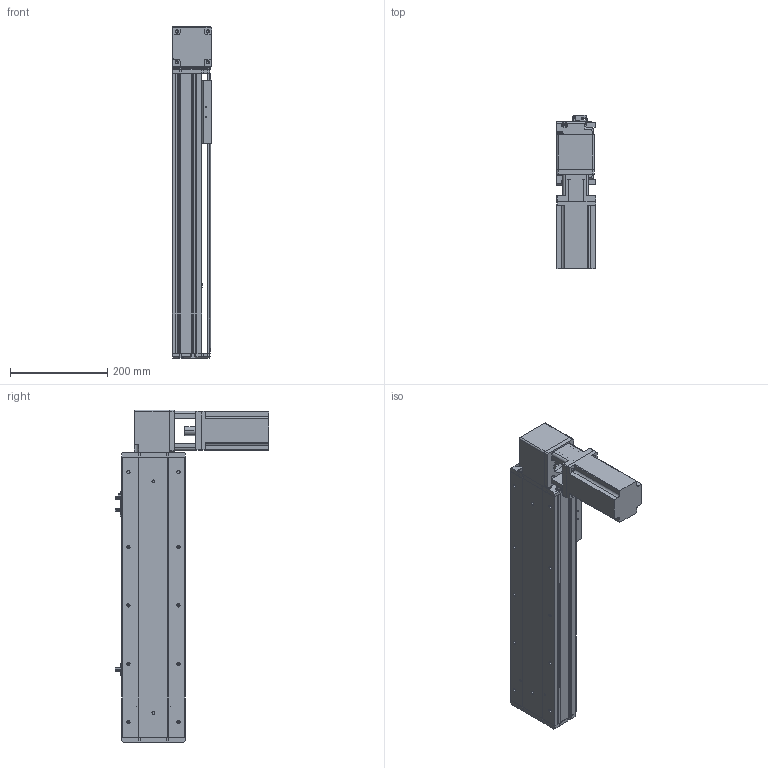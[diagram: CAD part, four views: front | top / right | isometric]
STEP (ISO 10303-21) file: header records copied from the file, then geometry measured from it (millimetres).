
FILE_DESCRIPTION (( 'STEP AP214' ), '1' );
FILE_NAME ('KSD130B-S350-MRT-CM.STEP', '2019-11-16T02:47:58', ( '微软用户' ), ( '微软中国' ), 'SwSTEP 2.0', 'SolidWorks 2014', '' );
FILE_SCHEMA (( 'AUTOMOTIVE_DESIGN' ));
Length unit declared in the file: millimetre
Products named in the file (12): 130宽马达安装板1-带电机座750W（1）; 覜茼え100遵圉猾敕; U倰嫖萇EEㄜSX672; 130宽安装板同步带带电机座750W; 130宽盖板半封闭同步带-350行程; 130宽马达安装板同步带左-改; 130宽马达安装板同步带半封闭; 130宽同步带安装座半封闭; 130宽端盖同步带半封闭; 130宽底板半封闭同步带-350行程; KSD130B-S350-MRT-CM; 台达ECMA－C20807AS伺服电机
Assembly tree (13 placements, depth 2):
  KSD130B-S350-MRT-CM
    130宽底板半封闭同步带-350行程
    130宽端盖同步带半封闭
    130宽同步带安装座半封闭
    130宽马达安装板同步带半封闭
    130宽马达安装板同步带左-改
    130宽盖板半封闭同步带-350行程
    130宽安装板同步带带电机座750W
    U倰嫖萇EEㄜSX672  x3
    覜茼え100遵圉猾敕
    130宽马达安装板1-带电机座750W（1）
    台达ECMA－C20807AS伺服电机
Bounding box: 81 x 316 x 683 mm (x, y, z)
Volume: 3210643.8 mm3; surface area: 774548.3 mm2
Topology: 14 solids, 14 shells, 1357 faces, 3792 edges, 2441 vertices
Faces by surface type: cylinder 635, plane 585, cone 137
Entity records: 42907 total; most frequent: CARTESIAN_POINT 7579, DIRECTION 6606, ORIENTED_EDGE 6308, EDGE_CURVE 3154, AXIS2_PLACEMENT_3D 2400, VERTEX_POINT 2065, VECTOR 1806, LINE 1806
